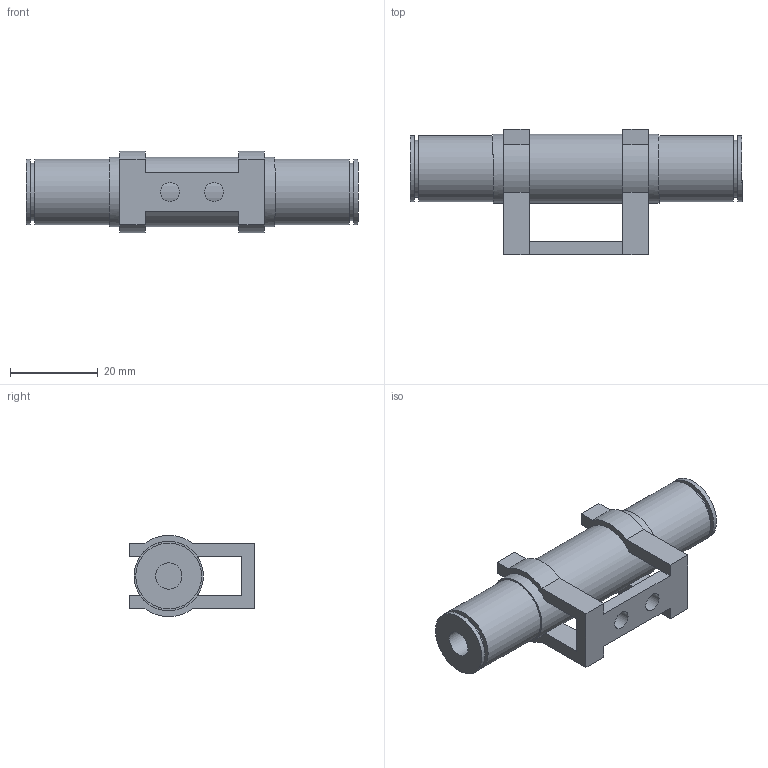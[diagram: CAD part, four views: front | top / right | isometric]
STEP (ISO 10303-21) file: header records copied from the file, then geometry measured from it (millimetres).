
FILE_DESCRIPTION(('STEP AP203'),'1');
FILE_NAME('BCVL-1006-C.stp','2025-07-18T00:59:47',(' '),(' '),'Spatial InterOp 3D',' ',' ');
FILE_SCHEMA(('CONFIG_CONTROL_DESIGN'));
Length unit declared in the file: millimetre
Products named in the file (1): 1
Bounding box: 75.6 x 28.6 x 18.5 mm (x, y, z)
Volume: 15378.3 mm3; surface area: 6940.9 mm2
Topology: 1 solids, 1 shells, 55 faces, 137 edges, 90 vertices
Faces by surface type: plane 40, cylinder 15
Full cylindrical faces by diameter (mm): 4.3 x2, 6 x2, 13 x2, 15 x4, 15.8 x1
Entity records: 1646 total; most frequent: DIRECTION 276, CARTESIAN_POINT 272, ORIENTED_EDGE 252, EDGE_CURVE 126, AXIS2_PLACEMENT_3D 94, VERTEX_POINT 90, LINE 88, VECTOR 88
